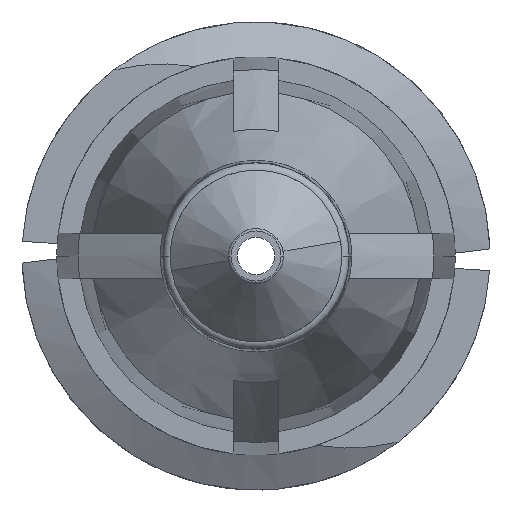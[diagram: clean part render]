
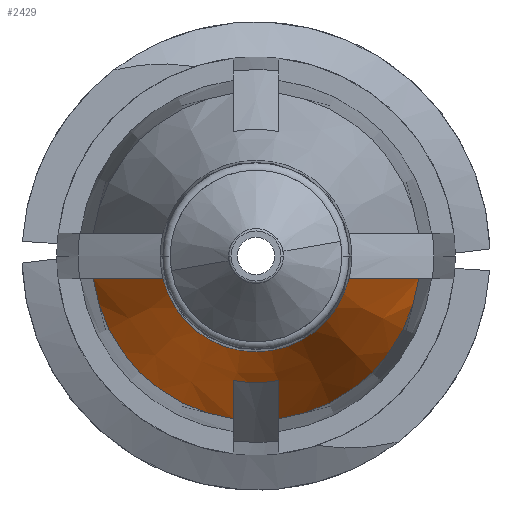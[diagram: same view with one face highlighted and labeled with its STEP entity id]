
A CAD part, front view. The second image highlights one B-rep face of the part: STEP entity #2429.
In plain terms, the highlighted conical face has half-angle 20 degrees and reference radius 2.745 mm.
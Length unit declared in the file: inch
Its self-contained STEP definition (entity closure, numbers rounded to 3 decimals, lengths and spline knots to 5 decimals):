
#1 = CARTESIAN_POINT ( 'NONE',  ( -0.10703, -0.406, -0.015 ) ) ;
#12 = ORIENTED_EDGE ( 'NONE', *, *, #3060, .T. ) ;
#178 = ORIENTED_EDGE ( 'NONE', *, *, #3353, .F. ) ;
#201 = EDGE_CURVE ( 'NONE', #2380, #1353, #1415, .T. ) ;
#248 = CARTESIAN_POINT ( 'NONE',  ( 0.015, -0.406, -0.10703 ) ) ;
#332 = EDGE_LOOP ( 'NONE', ( #2626, #2959, #12, #178, #3087, #3136, #1576, #3399 ) ) ;
#459 = CARTESIAN_POINT ( 'NONE',  ( -0.015, -0.406, -0.10703 ) ) ;
#522 = B_SPLINE_CURVE_WITH_KNOTS ( 'NONE', 3,
 ( #2027, #2124, #1048, #2874 ),
 .UNSPECIFIED., .F., .F.,
 ( 4, 4 ),
 ( 0.00282, 0.00617 ),
 .UNSPECIFIED. ) ;
#538 = CARTESIAN_POINT ( 'NONE',  ( -0.09185, -0.44732, -0.015 ) ) ;
#583 = DIRECTION ( 'NONE',  ( 0., 1., 0. ) ) ;
#607 = CARTESIAN_POINT ( 'NONE',  ( 0.10703, -0.406, -0.015 ) ) ;
#628 = VERTEX_POINT ( 'NONE', #607 ) ;
#630 = CIRCLE ( 'NONE', #1345, 0.08335 ) ;
#755 = B_SPLINE_CURVE_WITH_KNOTS ( 'NONE', 3,
 ( #861, #1060, #538, #1372 ),
 .UNSPECIFIED., .F., .F.,
 ( 4, 4 ),
 ( 0.00282, 0.00617 ),
 .UNSPECIFIED. ) ;
#795 = CARTESIAN_POINT ( 'NONE',  ( 0.015, -0.45131, -0.09036 ) ) ;
#807 = VERTEX_POINT ( 'NONE', #2248 ) ;
#861 = CARTESIAN_POINT ( 'NONE',  ( -0.06119, -0.52985, -0.015 ) ) ;
#948 = VERTEX_POINT ( 'NONE', #1466 ) ;
#1001 = CIRCLE ( 'NONE', #1487, 0.063 ) ;
#1048 = CARTESIAN_POINT ( 'NONE',  ( 0.09185, -0.44732, -0.015 ) ) ;
#1060 = CARTESIAN_POINT ( 'NONE',  ( -0.07664, -0.48863, -0.015 ) ) ;
#1092 = DIRECTION ( 'NONE',  ( 1., 0., 0. ) ) ;
#1203 = EDGE_CURVE ( 'NONE', #628, #948, #1256, .T. ) ;
#1256 = CIRCLE ( 'NONE', #1418, 0.10808 ) ;
#1315 = VERTEX_POINT ( 'NONE', #1 ) ;
#1345 = AXIS2_PLACEMENT_3D ( 'NONE', #1397, #1699, #2994 ) ;
#1353 = VERTEX_POINT ( 'NONE', #459 ) ;
#1372 = CARTESIAN_POINT ( 'NONE',  ( -0.10703, -0.406, -0.015 ) ) ;
#1393 = CARTESIAN_POINT ( 'NONE',  ( 0., -0.406, 0. ) ) ;
#1397 = CARTESIAN_POINT ( 'NONE',  ( 0., -0.47395, 0. ) ) ;
#1398 = AXIS2_PLACEMENT_3D ( 'NONE', #1393, #583, #1092 ) ;
#1415 = B_SPLINE_CURVE_WITH_KNOTS ( 'NONE', 3,
 ( #1791, #3416, #2861, #2096 ),
 .UNSPECIFIED., .F., .F.,
 ( 4, 4 ),
 ( 0.00247, 0.00431 ),
 .UNSPECIFIED. ) ;
#1418 = AXIS2_PLACEMENT_3D ( 'NONE', #3072, #3369, #3352 ) ;
#1466 = CARTESIAN_POINT ( 'NONE',  ( 0.015, -0.406, -0.10703 ) ) ;
#1487 = AXIS2_PLACEMENT_3D ( 'NONE', #3058, #2244, #2283 ) ;
#1565 = CARTESIAN_POINT ( 'NONE',  ( 0.015, -0.47395, -0.08198 ) ) ;
#1576 = ORIENTED_EDGE ( 'NONE', *, *, #2984, .F. ) ;
#1612 = CARTESIAN_POINT ( 'NONE',  ( 0.015, -0.47395, -0.08198 ) ) ;
#1615 = VERTEX_POINT ( 'NONE', #1926 ) ;
#1699 = DIRECTION ( 'NONE',  ( 0., 1., 0. ) ) ;
#1791 = CARTESIAN_POINT ( 'NONE',  ( -0.015, -0.47395, -0.08198 ) ) ;
#1926 = CARTESIAN_POINT ( 'NONE',  ( -0.06119, -0.52985, -0.015 ) ) ;
#2027 = CARTESIAN_POINT ( 'NONE',  ( 0.06119, -0.52985, -0.015 ) ) ;
#2050 = VERTEX_POINT ( 'NONE', #1612 ) ;
#2055 = FACE_OUTER_BOUND ( 'NONE', #332, .T. ) ;
#2096 = CARTESIAN_POINT ( 'NONE',  ( -0.015, -0.406, -0.10703 ) ) ;
#2124 = CARTESIAN_POINT ( 'NONE',  ( 0.07664, -0.48863, -0.015 ) ) ;
#2244 = DIRECTION ( 'NONE',  ( 0., 1., 0. ) ) ;
#2248 = CARTESIAN_POINT ( 'NONE',  ( 0.06119, -0.52985, -0.015 ) ) ;
#2281 = CARTESIAN_POINT ( 'NONE',  ( 0., -0.406, 0. ) ) ;
#2283 = DIRECTION ( 'NONE',  ( 1., 0., 0. ) ) ;
#2380 = VERTEX_POINT ( 'NONE', #3206 ) ;
#2429 = ADVANCED_FACE ( 'NONE', ( #2055 ), #2458, .T. ) ;
#2458 = CONICAL_SURFACE ( 'NONE', #1398, 0.10808, 0.349 ) ;
#2507 = DIRECTION ( 'NONE',  ( 0., 1., 0. ) ) ;
#2571 = AXIS2_PLACEMENT_3D ( 'NONE', #2281, #2507, #3312 ) ;
#2626 = ORIENTED_EDGE ( 'NONE', *, *, #2990, .F. ) ;
#2788 = EDGE_CURVE ( 'NONE', #807, #1615, #1001, .T. ) ;
#2857 = B_SPLINE_CURVE_WITH_KNOTS ( 'NONE', 3,
 ( #248, #3351, #795, #1565 ),
 .UNSPECIFIED., .F., .F.,
 ( 4, 4 ),
 ( 0.00343, 0.00527 ),
 .UNSPECIFIED. ) ;
#2861 = CARTESIAN_POINT ( 'NONE',  ( -0.015, -0.42866, -0.0987 ) ) ;
#2874 = CARTESIAN_POINT ( 'NONE',  ( 0.10703, -0.406, -0.015 ) ) ;
#2959 = ORIENTED_EDGE ( 'NONE', *, *, #2788, .T. ) ;
#2984 = EDGE_CURVE ( 'NONE', #948, #2050, #2857, .T. ) ;
#2990 = EDGE_CURVE ( 'NONE', #807, #628, #522, .T. ) ;
#2994 = DIRECTION ( 'NONE',  ( -1., 0., 0. ) ) ;
#3024 = CIRCLE ( 'NONE', #2571, 0.10808 ) ;
#3058 = CARTESIAN_POINT ( 'NONE',  ( 0., -0.52985, 0. ) ) ;
#3060 = EDGE_CURVE ( 'NONE', #1615, #1315, #755, .T. ) ;
#3072 = CARTESIAN_POINT ( 'NONE',  ( 0., -0.406, 0. ) ) ;
#3087 = ORIENTED_EDGE ( 'NONE', *, *, #201, .F. ) ;
#3136 = ORIENTED_EDGE ( 'NONE', *, *, #3214, .F. ) ;
#3206 = CARTESIAN_POINT ( 'NONE',  ( -0.015, -0.47395, -0.08198 ) ) ;
#3214 = EDGE_CURVE ( 'NONE', #2050, #2380, #630, .T. ) ;
#3312 = DIRECTION ( 'NONE',  ( 1., 0., 0. ) ) ;
#3351 = CARTESIAN_POINT ( 'NONE',  ( 0.015, -0.42866, -0.0987 ) ) ;
#3352 = DIRECTION ( 'NONE',  ( 1., 0., 0. ) ) ;
#3353 = EDGE_CURVE ( 'NONE', #1353, #1315, #3024, .T. ) ;
#3369 = DIRECTION ( 'NONE',  ( 0., 1., 0. ) ) ;
#3399 = ORIENTED_EDGE ( 'NONE', *, *, #1203, .F. ) ;
#3416 = CARTESIAN_POINT ( 'NONE',  ( -0.015, -0.45131, -0.09036 ) ) ;
